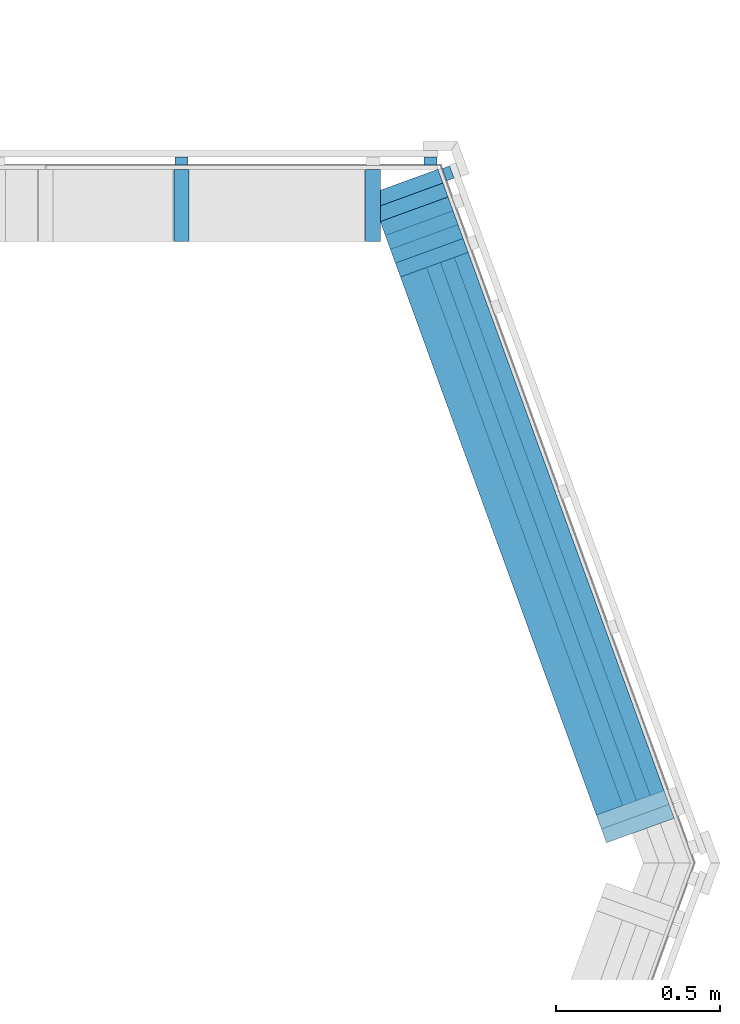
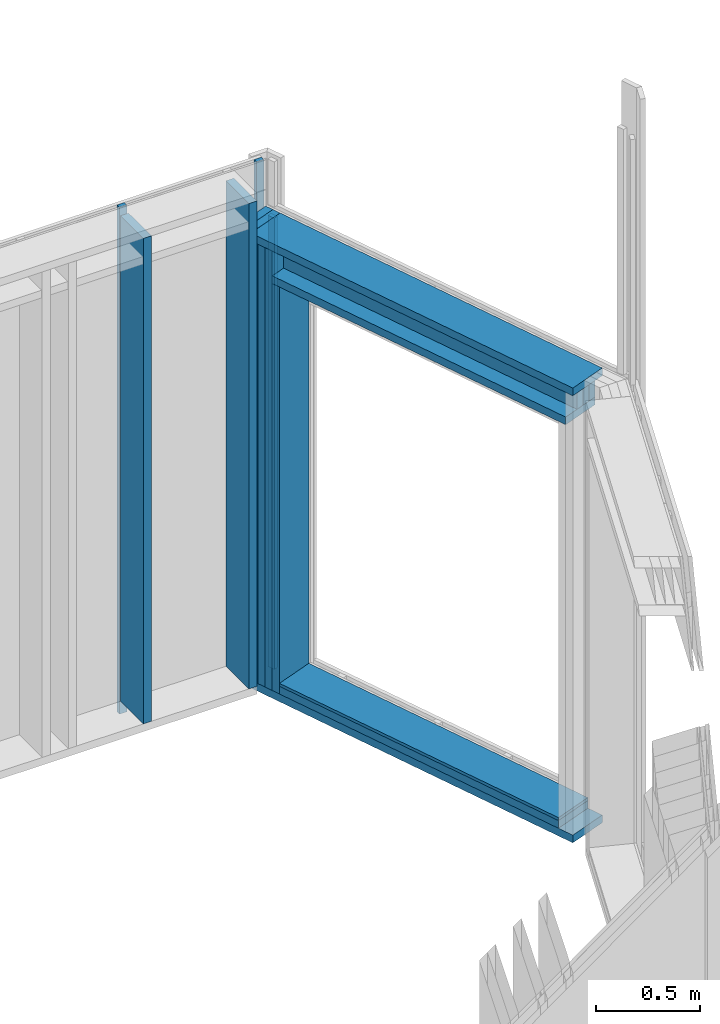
# One storey, part 17 of 34: 19 members.
"""IFC2X3 building model written with IfcOpenShell, lengths in metres."""

from ifc_helpers import new_model, si_unit, direction, frame, origin_with_axes, place, context, subcontext, project, spatial, faceted_brep, material, element, save


model = new_model("IFC2X3")

# Units and contexts
model_context = context("Model", 3, precision=1e-06, world=origin_with_axes(), true_north=direction((0.0, 1.0, 0.0)))
body_context = subcontext(model_context, "Body", "Model", "MODEL_VIEW")
ifc_project = project(units=[si_unit("LENGTHUNIT", "METRE"), si_unit("AREAUNIT", "SQUARE_METRE"), si_unit("VOLUMEUNIT", "CUBIC_METRE"), si_unit("PLANEANGLEUNIT", "RADIAN")], contexts=[model_context])

# Site, building, storey
site_placement = place(None, origin_with_axes())
site = spatial("IfcSite", under=ifc_project, at=site_placement, CompositionType="ELEMENT")
building_placement = place(site_placement, origin_with_axes())
building = spatial("IfcBuilding", under=site, at=building_placement, Name="Building 1", CompositionType="ELEMENT")
storey_placement = place(building_placement, origin_with_axes())
storey = spatial("IfcBuildingStorey", under=building, at=storey_placement, Name="Rez de chaussée", CompositionType="ELEMENT", Elevation=0.0)

# Members
ifc_material = material(Name="Epicéa C24")
for number, where, z_axis, x_axis, name in (
    (1, (18.3954653, 1.9498442, 2.5925), (0.0, 0.0, -1.0), (-0.3420201, 0.9396926, 0.0), "Montant"),
    (2, (18.4800377, 1.980626, 2.5925), (0.0, 0.0, -1.0), (-0.3420201, 0.9396926, 0.0), "Montant"),
):
    element("IfcMember", number, at=place(storey_placement, frame(where, z_axis=z_axis, x_axis=x_axis)), inside=storey, material=ifc_material, Name=name, context=body_context, shape_type="Brep", body=[
        faceted_brep([(1.8389286, 0.0225, -0.0725), (1.8389286, 0.0225, 0.0725), (1.8389286, -0.0225, 0.0725), (1.8389286, -0.0225, -0.0725), (0.0, 0.0225, 0.0725), (0.0, 0.0225, -0.0725), (0.0, -0.0225, -0.0725), (0.0, -0.0225, 0.0725)], [[[0, 1, 2, 3]], [[4, 5, 6, 7]], [[3, 6, 5, 0]], [[2, 7, 6, 3]], [[1, 4, 7, 2]], [[0, 5, 4, 1]]]),
    ])
member_1_placement = place(storey_placement, frame((17.7611685, 3.69987, 2.665), z_axis=(0.9396926, 0.3420201, 0.0), x_axis=(0.0, 0.0, -1.0)))
element("IfcMember", 3, at=member_1_placement, inside=storey, material=ifc_material, Name="Montant", context=body_context, shape_type="Brep", body=[
    faceted_brep([(2.575, -0.0225, -0.11), (2.575, 0.0225, -0.11), (2.575, 0.0225, 0.11), (2.575, -0.0225, 0.11), (0.0, 0.0225, -0.11), (0.0, 0.0225, 0.11), (0.0, -0.0225, -0.11), (0.0, -0.0225, 0.11)], [[[0, 1, 2, 3]], [[2, 1, 4, 5]], [[1, 0, 6, 4]], [[0, 3, 7, 6]], [[3, 2, 5, 7]], [[7, 5, 4, 6]]]),
])
member_2_placement = place(storey_placement, frame((17.7765594, 3.6575838, 2.475), z_axis=(0.9396926, 0.3420201, 0.0), x_axis=(0.0, 0.0, -1.0)))
element("IfcMember", 4, at=member_2_placement, inside=storey, material=ifc_material, Name="Montant", context=body_context, shape_type="Brep", body=[
    faceted_brep([(2.385, -0.0225, -0.11), (2.385, 0.0225, -0.11), (2.385, 0.0225, 0.11), (2.385, -0.0225, 0.11), (0.0, 0.0225, -0.11), (0.0, 0.0225, 0.11), (0.0, -0.0225, -0.11), (0.0, -0.0225, 0.11)], [[[0, 1, 2, 3]], [[2, 1, 4, 5]], [[1, 0, 6, 4]], [[0, 3, 7, 6]], [[3, 2, 5, 7]], [[7, 5, 4, 6]]]),
])
member_3_placement = place(storey_placement, frame((18.3824237, 1.9929854, 0.1125), z_axis=(0.9396926, 0.3420201, 0.0), x_axis=(-0.3420201, 0.9396926, 0.0)))
element("IfcMember", 5, at=member_3_placement, inside=storey, material=ifc_material, Name="Montant", context=body_context, shape_type="Brep", body=[
    faceted_brep([(1.7489286, 0.0225, 0.11), (0.0, 0.0225, 0.11), (0.0, -0.0225, 0.11), (1.7489284, -0.0225, 0.11), (0.0, 0.0225, -0.11), (0.0, -0.0225, -0.11), (1.7489286, 0.0225, -0.11), (1.7489284, -0.0225, -0.11)], [[[0, 1, 2, 3]], [[1, 4, 5, 2]], [[5, 4, 6, 7]], [[4, 1, 0, 6]], [[7, 6, 0, 3]], [[2, 5, 7, 3]]]),
])
member_4_placement = place(storey_placement, frame((18.3824237, 1.9929854, 0.1435), z_axis=(0.9396926, 0.3420201, 0.0), x_axis=(-0.3420201, 0.9396926, 0.0)))
element("IfcMember", 6, at=member_4_placement, inside=storey, material=ifc_material, Name="Montant", context=body_context, shape_type="Brep", body=[
    faceted_brep([(1.7489284, 0.0085, 0.11), (0.0, 0.0085, 0.11), (0.0, -0.0085, 0.11), (1.7489284, -0.0085, 0.11), (1.7489284, 0.0085, -0.11), (0.0, 0.0085, -0.11), (1.7489284, -0.0085, -0.11), (0.0, -0.0085, -0.11)], [[[0, 1, 2, 3]], [[0, 4, 5, 1]], [[4, 0, 3, 6]], [[1, 5, 7, 2]], [[2, 7, 6, 3]], [[5, 4, 6, 7]]]),
])
member_5_placement = place(storey_placement, frame((18.4377515, 1.9652351, 2.5925), z_axis=(0.0, 0.0, -1.0), x_axis=(-0.3420201, 0.9396926, 0.0)))
element("IfcMember", 7, at=member_5_placement, inside=storey, material=ifc_material, Name="Montant", context=body_context, shape_type="Brep", body=[
    faceted_brep([(1.8389286, 0.0225, -0.0725), (1.8389286, 0.0225, 0.0725), (1.8389286, -0.0225, 0.0725), (1.8389286, -0.0225, -0.0725), (0.0, 0.0225, 0.0725), (0.0, 0.0225, -0.0725), (0.0, -0.0225, -0.0725), (0.0, -0.0225, 0.0725)], [[[0, 1, 2, 3]], [[4, 5, 6, 7]], [[3, 6, 5, 0]], [[2, 7, 6, 3]], [[1, 4, 7, 2]], [[0, 5, 4, 1]]]),
])
member_6_placement = place(storey_placement, frame((17.7149958, 3.8267285, 2.71), z_axis=(-0.9396926, -0.3420201, 0.0), x_axis=(0.0, 0.0, -1.0)))
element("IfcMember", 8, at=member_6_placement, inside=storey, material=ifc_material, Name="Montant", context=body_context, shape_type="Brep", body=[
    faceted_brep([(0.0, 0.0225, 0.11), (0.0, -0.0225, 0.0936213), (2.665, -0.0225, 0.0936213), (2.665, 0.0225, 0.11), (0.0, -0.0225, -0.11), (2.665, -0.0225, -0.11), (0.0, 0.0225, -0.11), (2.665, 0.0225, -0.11)], [[[0, 1, 2, 3]], [[2, 1, 4, 5]], [[1, 0, 6, 4]], [[3, 2, 5, 7]], [[7, 6, 0, 3]], [[5, 4, 6, 7]]]),
])
member_7_placement = place(storey_placement, frame((17.7457776, 3.7421561, 2.665), z_axis=(0.9396926, 0.3420201, 0.0), x_axis=(0.0, 0.0, -1.0)))
element("IfcMember", 9, at=member_7_placement, inside=storey, material=ifc_material, Name="Montant", context=body_context, shape_type="Brep", body=[
    faceted_brep([(2.575, -0.0225, -0.11), (2.575, 0.0225, -0.11), (2.575, 0.0225, 0.11), (2.575, -0.0225, 0.11), (0.0, 0.0225, -0.11), (0.0, 0.0225, 0.11), (0.0, -0.0225, -0.11), (0.0, -0.0225, 0.11)], [[[0, 1, 2, 3]], [[2, 1, 4, 5]], [[1, 0, 6, 4]], [[0, 3, 7, 6]], [[3, 2, 5, 7]], [[7, 5, 4, 6]]]),
])
member_8_placement = place(storey_placement, frame((18.4132055, 1.9084131, 0.0675), z_axis=(-0.9396926, -0.3420201, 0.0), x_axis=(-0.3420201, 0.9396926, 0.0)))
element("IfcMember", 10, at=member_8_placement, inside=storey, material=ifc_material, Name="Lisse basse", context=body_context, shape_type="Brep", body=[
    faceted_brep([(2.0189284, -0.0225, -0.11), (0.0, -0.0225, -0.11), (0.0, 0.0225, -0.11), (2.0189284, 0.0225, -0.11), (2.0189284, -0.0225, 0.11), (0.0, -0.0225, 0.11), (2.0189284, 0.0225, 0.11), (0.0, 0.0225, 0.11)], [[[0, 1, 2, 3]], [[4, 5, 1, 0]], [[6, 4, 0, 3]], [[7, 6, 3, 2]], [[5, 4, 6, 7]], [[5, 7, 2, 1]]]),
])
member_9_placement = place(storey_placement, frame((17.012216, 3.9527799, 2.975), z_axis=(0.0, 1.0, 0.0), x_axis=(0.0, 0.0, -1.0)))
element("IfcMember", 11, at=member_9_placement, inside=storey, material=ifc_material, Name="latte 27/40", context=body_context, shape_type="Brep", body=[
    faceted_brep([(2.97, -0.02, 0.012), (2.97, 0.02, 0.012), (0.0, 0.02, 0.012), (0.0, -0.02, 0.012), (0.0, 0.02, -0.012), (0.0, -0.02, -0.012), (2.97, 0.02, -0.012), (2.97, -0.02, -0.012)], [[[0, 1, 2, 3]], [[3, 2, 4, 5]], [[2, 1, 6, 4]], [[1, 0, 7, 6]], [[6, 7, 5, 4]], [[0, 3, 5, 7]]]),
])
member_10_placement = place(storey_placement, frame((17.012216, 3.8177799, 2.935), z_axis=(0.0, 1.0, 0.0), x_axis=(0.0, 0.0, -1.0)))
element("IfcMember", 12, at=member_10_placement, inside=storey, material=ifc_material, Name="Montant", context=body_context, shape_type="Brep", body=[
    faceted_brep([(2.845, -0.0225, 0.11), (2.845, 0.0225, 0.11), (0.0, 0.0225, 0.11), (0.0, -0.0225, 0.11), (2.845, -0.0225, -0.11), (2.845, 0.0225, -0.11), (0.0, -0.0225, -0.11), (0.0, 0.0225, -0.11)], [[[0, 1, 2, 3]], [[4, 5, 1, 0]], [[4, 0, 3, 6]], [[5, 4, 6, 7]], [[1, 5, 7, 2]], [[3, 2, 7, 6]]]),
])
member_11_placement = place(storey_placement, frame((18.4132055, 1.9084131, 2.6875), z_axis=(-0.9396926, -0.3420201, 0.0), x_axis=(-0.3420201, 0.9396926, 0.0)))
element("IfcMember", 13, at=member_11_placement, inside=storey, material=ifc_material, Name="Montant", context=body_context, shape_type="Brep", body=[
    faceted_brep([(2.0189284, -0.0225, -0.11), (0.0, -0.0225, -0.11), (0.0, 0.0225, -0.11), (2.0189284, 0.0225, -0.11), (2.0189284, -0.0225, 0.11), (0.0, -0.0225, 0.11), (2.0189284, 0.0225, 0.11), (0.0, 0.0225, 0.11)], [[[0, 1, 2, 3]], [[4, 5, 1, 0]], [[6, 4, 0, 3]], [[7, 6, 3, 2]], [[5, 4, 6, 7]], [[5, 7, 2, 1]]]),
])
member_12_placement = place(storey_placement, frame((17.7073004, 3.8718155, 2.71), z_axis=(-0.9396926, -0.3420201, 0.0), x_axis=(0.0, 0.0, -1.0)))
element("IfcMember", 14, at=member_12_placement, inside=storey, material=ifc_material, Name="Montant", context=body_context, shape_type="Brep", body=[
    faceted_brep([(0.0, 0.0225, 0.1018107), (0.0, -0.0225, 0.085432), (2.665, -0.0225, 0.085432), (2.665, 0.0225, 0.1018106), (0.0, -0.0225, -0.1018106), (2.665, -0.0225, -0.1018106), (0.0, 0.0225, -0.1018106), (2.665, 0.0225, -0.1018106)], [[[0, 1, 2, 3]], [[2, 1, 4, 5]], [[1, 0, 6, 4]], [[3, 2, 5, 7]], [[0, 3, 7, 6]], [[5, 4, 6, 7]]]),
])
member_13_placement = place(storey_placement, frame((17.8264634, 3.9151873, 2.65), z_axis=(0.9396926, 0.3420201, 0.0), x_axis=(0.0, 0.0, -1.0)))
element("IfcMember", 15, at=member_13_placement, inside=storey, material=ifc_material, Name="latte chantier", context=body_context, shape_type="Brep", body=[
    faceted_brep([(0.0, 0.02, 0.012), (0.0, -0.02, 0.012), (2.645, -0.02, 0.012), (2.645, 0.02, 0.012), (2.645, -0.02, -0.012), (2.645, 0.02, -0.012), (0.0, 0.02, -0.012), (0.0, -0.02, -0.012)], [[[0, 1, 2, 3]], [[3, 2, 4, 5]], [[0, 3, 5, 6]], [[1, 0, 6, 7]], [[7, 6, 5, 4]], [[2, 1, 7, 4]]]),
])
member_14_placement = place(storey_placement, frame((17.5968251, 3.8177799, 2.935), z_axis=(0.0, 1.0, 0.0), x_axis=(0.0, 0.0, -1.0)))
element("IfcMember", 16, at=member_14_placement, inside=storey, material=ifc_material, Name="Montant", context=body_context, shape_type="Brep", body=[
    faceted_brep([(2.845, -0.0225, 0.11), (2.845, 0.0225, 0.11), (0.0, 0.0225, 0.11), (0.0, -0.0225, 0.11), (2.845, -0.0225, -0.11), (2.845, 0.0225, -0.11), (0.0, -0.0225, -0.11), (0.0, 0.0225, -0.11)], [[[0, 1, 2, 3]], [[4, 5, 1, 0]], [[4, 0, 3, 6]], [[5, 4, 6, 7]], [[1, 5, 7, 2]], [[3, 2, 7, 6]]]),
])
member_15_placement = place(storey_placement, frame((17.7727756, 3.9527799, 2.975), z_axis=(0.0, 1.0, 0.0), x_axis=(0.0, 0.0, -1.0)))
element("IfcMember", 17, at=member_15_placement, inside=storey, material=ifc_material, Name="latte chantier", context=body_context, shape_type="Brep", body=[
    faceted_brep([(2.97, -0.02, 0.012), (2.97, 0.02, 0.012), (0.0, 0.02, 0.012), (0.0, -0.02, 0.012), (0.0, 0.02, -0.012), (0.0, -0.02, -0.012), (2.97, 0.02, -0.012), (2.97, -0.02, -0.012)], [[[0, 1, 2, 3]], [[3, 2, 4, 5]], [[2, 1, 6, 4]], [[1, 0, 7, 6]], [[6, 7, 5, 4]], [[0, 3, 5, 7]]]),
])
member_16_placement = place(storey_placement, frame((18.3978146, 1.9506992, 2.4975), z_axis=(0.9396926, 0.3420201, 0.0), x_axis=(-0.3420201, 0.9396926, 0.0)))
element("IfcMember", 18, at=member_16_placement, inside=storey, material=ifc_material, Name="Montant", context=body_context, shape_type="Brep", body=[
    faceted_brep([(1.8389286, 0.0225, 0.11), (0.0, 0.0225, 0.11), (0.0, -0.0225, 0.11), (1.8389286, -0.0225, 0.11), (0.0, 0.0225, -0.11), (0.0, -0.0225, -0.11), (1.8389286, 0.0225, -0.11), (1.8389286, -0.0225, -0.11)], [[[0, 1, 2, 3]], [[1, 4, 5, 2]], [[5, 4, 6, 7]], [[4, 1, 0, 6]], [[7, 6, 0, 3]], [[2, 5, 7, 3]]]),
])
member_17_placement = place(storey_placement, frame((17.7303867, 3.7844423, 2.665), z_axis=(0.9396926, 0.3420201, 0.0), x_axis=(0.0, 0.0, -1.0)))
element("IfcMember", 19, at=member_17_placement, inside=storey, material=ifc_material, Name="Montant", context=body_context, shape_type="Brep", body=[
    faceted_brep([(2.575, -0.0225, -0.11), (2.575, 0.0225, -0.11), (2.575, 0.0225, 0.11), (2.575, -0.0225, 0.11), (0.0, 0.0225, -0.11), (0.0, 0.0225, 0.11), (0.0, -0.0225, -0.11), (0.0, -0.0225, 0.11)], [[[0, 1, 2, 3]], [[2, 1, 4, 5]], [[1, 0, 6, 4]], [[0, 3, 7, 6]], [[3, 2, 5, 7]], [[7, 5, 4, 6]]]),
])

save(model, "model.ifc")
